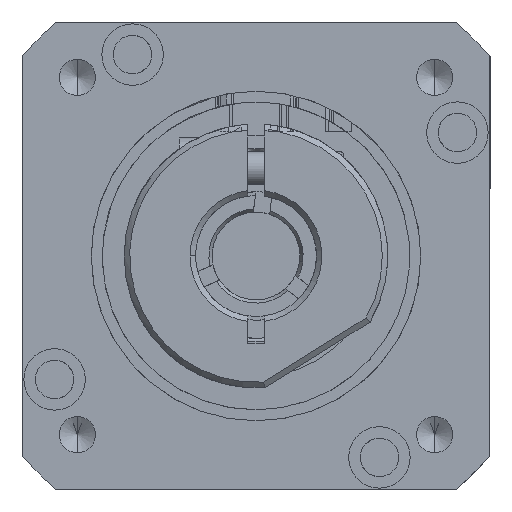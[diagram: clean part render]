
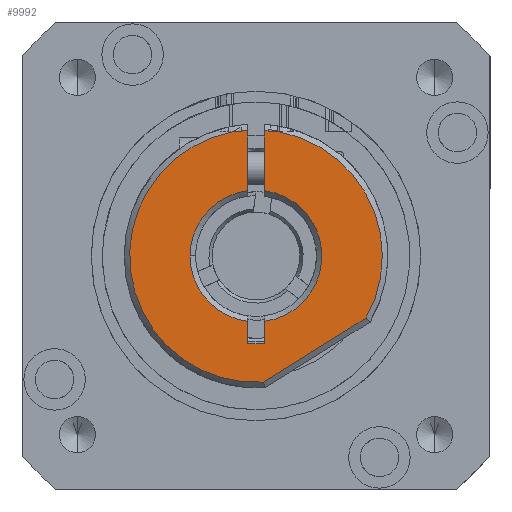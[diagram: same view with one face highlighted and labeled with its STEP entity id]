
A CAD part, left-side view. The second image highlights one B-rep face of the part: STEP entity #9992.
In plain terms, the highlighted planar face has unit normal (-1, 0, 0) as drawn and (0, -1, 0) by its records, which use the part's own axes.
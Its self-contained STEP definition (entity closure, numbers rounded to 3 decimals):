
#509 = DIRECTION ( 'NONE',  ( 0., 1., 0. ) ) ;
#735 = VERTEX_POINT ( 'NONE', #27002 ) ;
#1204 = EDGE_CURVE ( 'NONE', #4743, #26097, #44461, .T. ) ;
#1521 = EDGE_CURVE ( 'NONE', #30246, #51483, #12204, .T. ) ;
#1585 = CARTESIAN_POINT ( 'NONE',  ( 0., -4., 0. ) ) ;
#1595 = EDGE_CURVE ( 'NONE', #735, #4743, #52326, .T. ) ;
#1829 = CARTESIAN_POINT ( 'NONE',  ( -11.3, -4., -2.135 ) ) ;
#1838 = AXIS2_PLACEMENT_3D ( 'NONE', #32305, #6321, #36533 ) ;
#2911 = VERTEX_POINT ( 'NONE', #17783 ) ;
#3038 = DIRECTION ( 'NONE',  ( 0., 0., 1. ) ) ;
#3108 = VECTOR ( 'NONE', #46470, 1000. ) ;
#3769 = VECTOR ( 'NONE', #49221, 1000. ) ;
#4743 = VERTEX_POINT ( 'NONE', #24893 ) ;
#5020 = CARTESIAN_POINT ( 'NONE',  ( 0., -4., -6. ) ) ;
#5091 = CARTESIAN_POINT ( 'NONE',  ( 8., -4., 0.75 ) ) ;
#5110 = LINE ( 'NONE', #14451, #3769 ) ;
#5132 = EDGE_CURVE ( 'NONE', #9571, #20587, #38914, .T. ) ;
#5908 = DIRECTION ( 'NONE',  ( 0., 0., 1. ) ) ;
#6027 = AXIS2_PLACEMENT_3D ( 'NONE', #49995, #11053, #10868 ) ;
#6119 = ORIENTED_EDGE ( 'NONE', *, *, #1595, .T. ) ;
#6224 = CARTESIAN_POINT ( 'NONE',  ( 5.953, -4., -0.75 ) ) ;
#6321 = DIRECTION ( 'NONE',  ( 0., -1., 0. ) ) ;
#7102 = CARTESIAN_POINT ( 'NONE',  ( 8., -4., 0. ) ) ;
#7272 = CARTESIAN_POINT ( 'NONE',  ( -14.792, -4., 0.75 ) ) ;
#8378 = DIRECTION ( 'NONE',  ( 1., 0., 0. ) ) ;
#8891 = EDGE_LOOP ( 'NONE', ( #40999, #54942, #6119, #28379, #44797, #39436, #15632, #49422, #26808, #45241, #46690, #32345, #53198, #37542, #49753, #14250, #25724 ) ) ;
#9097 = EDGE_CURVE ( 'NONE', #16185, #40439, #49828, .T. ) ;
#9571 = VERTEX_POINT ( 'NONE', #32553 ) ;
#9992 = ADVANCED_FACE ( 'NONE', ( #52475 ), #15249, .T. ) ;
#10084 = CARTESIAN_POINT ( 'NONE',  ( 8., -4., -0.75 ) ) ;
#10143 = VECTOR ( 'NONE', #8378, 1000. ) ;
#10868 = DIRECTION ( 'NONE',  ( 0., 0., -1. ) ) ;
#11053 = DIRECTION ( 'NONE',  ( 0., -1., 0. ) ) ;
#11073 = VECTOR ( 'NONE', #49911, 1000. ) ;
#11454 = DIRECTION ( 'NONE',  ( 0., 0., -1. ) ) ;
#12204 = LINE ( 'NONE', #30266, #21081 ) ;
#13147 = LINE ( 'NONE', #22225, #34769 ) ;
#13323 = CIRCLE ( 'NONE', #1838, 11.5 ) ;
#14250 = ORIENTED_EDGE ( 'NONE', *, *, #38356, .T. ) ;
#14451 = CARTESIAN_POINT ( 'NONE',  ( -11.3, -4., 0. ) ) ;
#14485 = DIRECTION ( 'NONE',  ( -1., 0., 0. ) ) ;
#14546 = CARTESIAN_POINT ( 'NONE',  ( -5.953, -4., 0.75 ) ) ;
#14614 = CARTESIAN_POINT ( 'NONE',  ( -14.792, -4., 0.75 ) ) ;
#14932 = DIRECTION ( 'NONE',  ( 1., 0., 0. ) ) ;
#15249 = PLANE ( 'NONE',  #6027 ) ;
#15632 = ORIENTED_EDGE ( 'NONE', *, *, #46540, .T. ) ;
#15677 = EDGE_CURVE ( 'NONE', #37966, #735, #13147, .T. ) ;
#16033 = VECTOR ( 'NONE', #14932, 1000. ) ;
#16185 = VERTEX_POINT ( 'NONE', #5020 ) ;
#16658 = AXIS2_PLACEMENT_3D ( 'NONE', #18573, #48417, #22942 ) ;
#17783 = CARTESIAN_POINT ( 'NONE',  ( -11.476, -4., -0.75 ) ) ;
#18573 = CARTESIAN_POINT ( 'NONE',  ( 0., -4., 0. ) ) ;
#18637 = DIRECTION ( 'NONE',  ( 0., -1., 0. ) ) ;
#18682 = DIRECTION ( 'NONE',  ( -1., 0., 0. ) ) ;
#19132 = CARTESIAN_POINT ( 'NONE',  ( 0., -4., 0. ) ) ;
#19726 = EDGE_CURVE ( 'NONE', #26097, #9571, #53468, .T. ) ;
#20387 = VERTEX_POINT ( 'NONE', #6224 ) ;
#20587 = VERTEX_POINT ( 'NONE', #5091 ) ;
#21081 = VECTOR ( 'NONE', #25690, 1000. ) ;
#21172 = VERTEX_POINT ( 'NONE', #1829 ) ;
#21598 = DIRECTION ( 'NONE',  ( -1., 0., 0. ) ) ;
#21938 = VERTEX_POINT ( 'NONE', #46281 ) ;
#22085 = DIRECTION ( 'NONE',  ( -1., 0., 0. ) ) ;
#22225 = CARTESIAN_POINT ( 'NONE',  ( 5.5, -4., 1.103 ) ) ;
#22892 = CIRCLE ( 'NONE', #40598, 11.5 ) ;
#22942 = DIRECTION ( 'NONE',  ( 0., 0., -1. ) ) ;
#23630 = AXIS2_PLACEMENT_3D ( 'NONE', #54265, #29063, #3038 ) ;
#23718 = EDGE_CURVE ( 'NONE', #33980, #20387, #50359, .T. ) ;
#24893 = CARTESIAN_POINT ( 'NONE',  ( -11.476, -4., 0.75 ) ) ;
#25659 = AXIS2_PLACEMENT_3D ( 'NONE', #26508, #509, #30827 ) ;
#25690 = DIRECTION ( 'NONE',  ( 1., 0., 0. ) ) ;
#25724 = ORIENTED_EDGE ( 'NONE', *, *, #37706, .T. ) ;
#25916 = CARTESIAN_POINT ( 'NONE',  ( -11.3, -4., 1.103 ) ) ;
#26097 = VERTEX_POINT ( 'NONE', #14546 ) ;
#26508 = CARTESIAN_POINT ( 'NONE',  ( 0., -4., 0. ) ) ;
#26539 = CARTESIAN_POINT ( 'NONE',  ( -11.3, -4., 2.135 ) ) ;
#26808 = ORIENTED_EDGE ( 'NONE', *, *, #36519, .T. ) ;
#27002 = CARTESIAN_POINT ( 'NONE',  ( -11.447, -4., 1.103 ) ) ;
#27139 = VECTOR ( 'NONE', #21598, 1000. ) ;
#27401 = EDGE_CURVE ( 'NONE', #37966, #35351, #5110, .T. ) ;
#28379 = ORIENTED_EDGE ( 'NONE', *, *, #1204, .T. ) ;
#28787 = EDGE_CURVE ( 'NONE', #21172, #38763, #22892, .T. ) ;
#29063 = DIRECTION ( 'NONE',  ( 0., -1., 0. ) ) ;
#30098 = CARTESIAN_POINT ( 'NONE',  ( -11.419, -4., -1.358 ) ) ;
#30246 = VERTEX_POINT ( 'NONE', #30098 ) ;
#30266 = CARTESIAN_POINT ( 'NONE',  ( 5.5, -4., -1.358 ) ) ;
#30827 = DIRECTION ( 'NONE',  ( 0., 0., -1. ) ) ;
#31105 = VECTOR ( 'NONE', #11454, 1000. ) ;
#31654 = CARTESIAN_POINT ( 'NONE',  ( -11.3, -4., -1.358 ) ) ;
#31911 = DIRECTION ( 'NONE',  ( 0., -1., 0. ) ) ;
#32305 = CARTESIAN_POINT ( 'NONE',  ( 0., -4., 0. ) ) ;
#32345 = ORIENTED_EDGE ( 'NONE', *, *, #36226, .T. ) ;
#32553 = CARTESIAN_POINT ( 'NONE',  ( 5.953, -4., 0.75 ) ) ;
#32666 = CIRCLE ( 'NONE', #16658, 6. ) ;
#33980 = VERTEX_POINT ( 'NONE', #46248 ) ;
#34587 = DIRECTION ( 'NONE',  ( 0., 0., -1. ) ) ;
#34769 = VECTOR ( 'NONE', #22085, 1000. ) ;
#34950 = DIRECTION ( 'NONE',  ( 0., 1., 0. ) ) ;
#35298 = CARTESIAN_POINT ( 'NONE',  ( 0., -4., 0. ) ) ;
#35351 = VERTEX_POINT ( 'NONE', #26539 ) ;
#35675 = CARTESIAN_POINT ( 'NONE',  ( -5.953, -4., -0.75 ) ) ;
#35824 = AXIS2_PLACEMENT_3D ( 'NONE', #19132, #18637, #18682 ) ;
#36226 = EDGE_CURVE ( 'NONE', #2911, #30246, #40621, .T. ) ;
#36519 = EDGE_CURVE ( 'NONE', #20387, #16185, #32666, .T. ) ;
#36533 = DIRECTION ( 'NONE',  ( -1., 0., 0. ) ) ;
#37542 = ORIENTED_EDGE ( 'NONE', *, *, #40128, .F. ) ;
#37706 = EDGE_CURVE ( 'NONE', #21938, #35351, #13323, .T. ) ;
#37966 = VERTEX_POINT ( 'NONE', #25916 ) ;
#38356 = EDGE_CURVE ( 'NONE', #38763, #21938, #40189, .T. ) ;
#38763 = VERTEX_POINT ( 'NONE', #49711 ) ;
#38766 = CARTESIAN_POINT ( 'NONE',  ( 8., -4., -0.75 ) ) ;
#38914 = LINE ( 'NONE', #14614, #16033 ) ;
#39436 = ORIENTED_EDGE ( 'NONE', *, *, #5132, .T. ) ;
#39743 = LINE ( 'NONE', #38766, #27139 ) ;
#40128 = EDGE_CURVE ( 'NONE', #21172, #51483, #45342, .T. ) ;
#40189 = LINE ( 'NONE', #42213, #3108 ) ;
#40439 = VERTEX_POINT ( 'NONE', #35675 ) ;
#40598 = AXIS2_PLACEMENT_3D ( 'NONE', #1585, #31911, #5908 ) ;
#40621 = CIRCLE ( 'NONE', #23630, 11.5 ) ;
#40999 = ORIENTED_EDGE ( 'NONE', *, *, #27401, .F. ) ;
#42064 = AXIS2_PLACEMENT_3D ( 'NONE', #35298, #34950, #34587 ) ;
#42213 = CARTESIAN_POINT ( 'NONE',  ( 11.479, -4., 0.689 ) ) ;
#42345 = LINE ( 'NONE', #7102, #31105 ) ;
#44461 = LINE ( 'NONE', #7272, #10143 ) ;
#44797 = ORIENTED_EDGE ( 'NONE', *, *, #19726, .T. ) ;
#45241 = ORIENTED_EDGE ( 'NONE', *, *, #9097, .T. ) ;
#45342 = LINE ( 'NONE', #45703, #11073 ) ;
#45703 = CARTESIAN_POINT ( 'NONE',  ( -11.3, -4., 0. ) ) ;
#46248 = CARTESIAN_POINT ( 'NONE',  ( 8., -4., -0.75 ) ) ;
#46281 = CARTESIAN_POINT ( 'NONE',  ( 5.651, -4., 10.016 ) ) ;
#46470 = DIRECTION ( 'NONE',  ( -0.53, 0., 0.848 ) ) ;
#46540 = EDGE_CURVE ( 'NONE', #20587, #33980, #42345, .T. ) ;
#46690 = ORIENTED_EDGE ( 'NONE', *, *, #50392, .T. ) ;
#48417 = DIRECTION ( 'NONE',  ( 0., 1., 0. ) ) ;
#49051 = VECTOR ( 'NONE', #14485, 1000. ) ;
#49221 = DIRECTION ( 'NONE',  ( 0., 0., 1. ) ) ;
#49422 = ORIENTED_EDGE ( 'NONE', *, *, #23718, .T. ) ;
#49711 = CARTESIAN_POINT ( 'NONE',  ( 11.479, -4., 0.689 ) ) ;
#49753 = ORIENTED_EDGE ( 'NONE', *, *, #28787, .T. ) ;
#49828 = CIRCLE ( 'NONE', #42064, 6. ) ;
#49911 = DIRECTION ( 'NONE',  ( 0., 0., 1. ) ) ;
#49995 = CARTESIAN_POINT ( 'NONE',  ( 5.5, -4., 0. ) ) ;
#50359 = LINE ( 'NONE', #10084, #49051 ) ;
#50392 = EDGE_CURVE ( 'NONE', #40439, #2911, #39743, .T. ) ;
#51483 = VERTEX_POINT ( 'NONE', #31654 ) ;
#52326 = CIRCLE ( 'NONE', #35824, 11.5 ) ;
#52475 = FACE_OUTER_BOUND ( 'NONE', #8891, .T. ) ;
#53198 = ORIENTED_EDGE ( 'NONE', *, *, #1521, .T. ) ;
#53468 = CIRCLE ( 'NONE', #25659, 6. ) ;
#54265 = CARTESIAN_POINT ( 'NONE',  ( 0., -4., 0. ) ) ;
#54942 = ORIENTED_EDGE ( 'NONE', *, *, #15677, .T. ) ;
